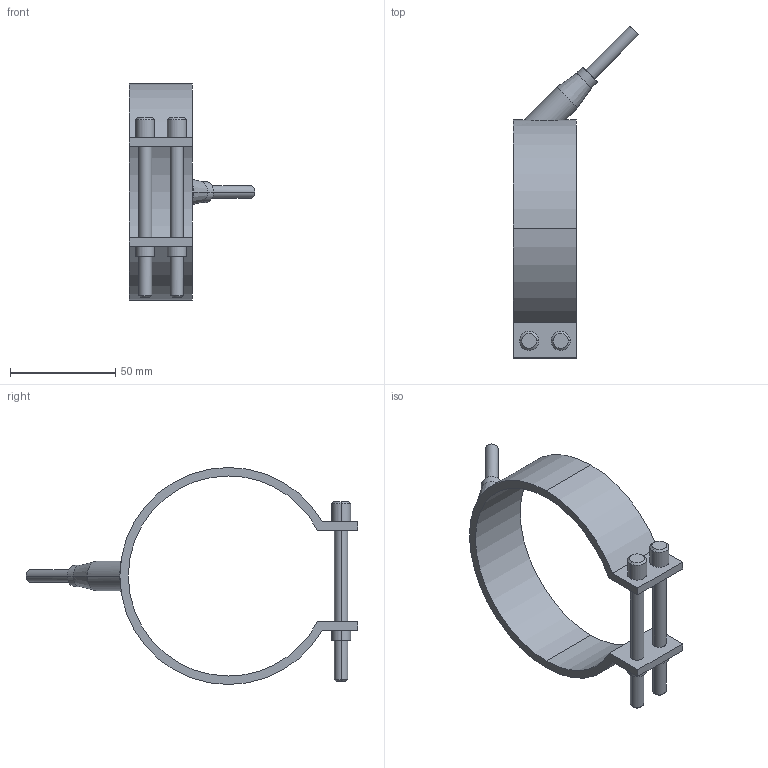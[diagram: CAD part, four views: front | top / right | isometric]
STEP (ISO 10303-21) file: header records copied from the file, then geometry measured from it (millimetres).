
FILE_DESCRIPTION(('CATIA V5 STEP Exchange'),'2;1');
FILE_NAME('C:\Users\Utente\Desktop\IO LAVORO\3D X SITO CF\X SITO\PLASTICA\RF1\29095030.stp','2021-03-29T17:54:41+00:00',('none'),('none'),'CATIA Version 5 Release 20 GA (IN-10)','CATIA V5 STEP AP203','none');
FILE_SCHEMA(('CONFIG_CONTROL_DESIGN'));
Length unit declared in the file: millimetre
Products named in the file (1): 29095030
Bounding box: 59.55 x 157.55 x 103 mm (x, y, z)
Volume: 46275 mm3; surface area: 25275.4 mm2
Topology: 1 solids, 1 shells, 54 faces, 123 edges, 79 vertices
Faces by surface type: cylinder 28, plane 16, cone 10
Entity records: 1728 total; most frequent: CARTESIAN_POINT 496, ORIENTED_EDGE 246, DIRECTION 213, EDGE_CURVE 123, AXIS2_PLACEMENT_3D 106, VERTEX_POINT 79, EDGE_LOOP 66, VECTOR 56
